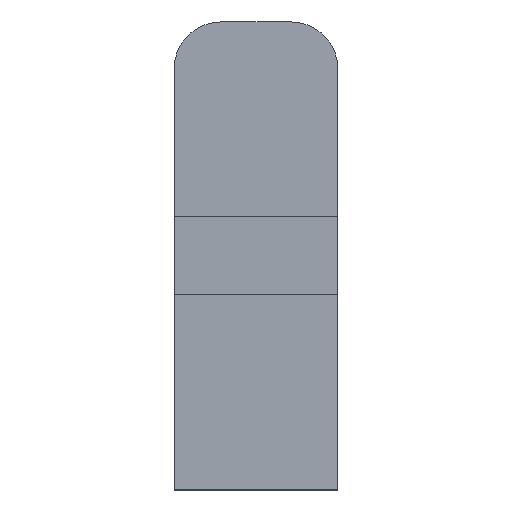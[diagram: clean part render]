
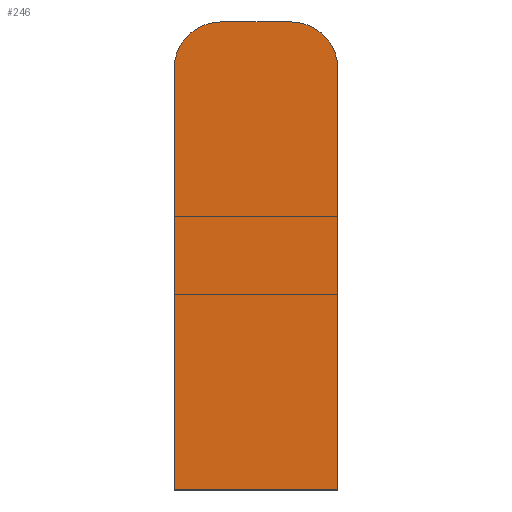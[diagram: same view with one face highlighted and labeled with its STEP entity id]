
A CAD part, front view. The second image highlights one B-rep face of the part: STEP entity #246.
In plain terms, the highlighted planar face has unit normal (0, -1, 0).
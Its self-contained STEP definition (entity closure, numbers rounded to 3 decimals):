
#11 = VERTEX_POINT ( 'NONE', #258 ) ;
#14 = VERTEX_POINT ( 'NONE', #266 ) ;
#39 = EDGE_LOOP ( 'NONE', ( #132, #133, #134, #135, #136, #137 ) ) ;
#55 = EDGE_CURVE ( 'NONE', #256, #249, #160, .T. ) ;
#60 = EDGE_CURVE ( 'NONE', #14, #11, #171, .T. ) ;
#62 = EDGE_CURVE ( 'NONE', #249, #253, #183, .T. ) ;
#65 = EDGE_CURVE ( 'NONE', #253, #257, #182, .T. ) ;
#68 = EDGE_CURVE ( 'NONE', #257, #14, #193, .T. ) ;
#76 = AXIS2_PLACEMENT_3D ( 'NONE', #298, #304, #312 ) ;
#77 = EDGE_CURVE ( 'NONE', #11, #256, #206, .T. ) ;
#87 = AXIS2_PLACEMENT_3D ( 'NONE', #308, #306, #309 ) ;
#100 = AXIS2_PLACEMENT_3D ( 'NONE', #379, #385, #386 ) ;
#132 = ORIENTED_EDGE ( 'NONE', *, *, #55, .T. ) ;
#133 = ORIENTED_EDGE ( 'NONE', *, *, #62, .T. ) ;
#134 = ORIENTED_EDGE ( 'NONE', *, *, #65, .T. ) ;
#135 = ORIENTED_EDGE ( 'NONE', *, *, #68, .T. ) ;
#136 = ORIENTED_EDGE ( 'NONE', *, *, #60, .T. ) ;
#137 = ORIENTED_EDGE ( 'NONE', *, *, #77, .T. ) ;
#160 = LINE ( 'NONE', #286, #168 ) ;
#168 = VECTOR ( 'NONE', #289, 1000. ) ;
#171 = LINE ( 'NONE', #294, #178 ) ;
#178 = VECTOR ( 'NONE', #299, 1000. ) ;
#179 = VECTOR ( 'NONE', #250, 1000. ) ;
#182 = LINE ( 'NONE', #252, #179 ) ;
#183 = CIRCLE ( 'NONE', #76, 3. ) ;
#193 = CIRCLE ( 'NONE', #87, 3. ) ;
#206 = LINE ( 'NONE', #333, #207 ) ;
#207 = VECTOR ( 'NONE', #334, 1000. ) ;
#227 = FACE_OUTER_BOUND ( 'NONE', #39, .T. ) ;
#246 = ADVANCED_FACE ( 'NONE', ( #227 ), #376, .F. ) ;
#249 = VERTEX_POINT ( 'NONE', #384 ) ;
#250 = DIRECTION ( 'NONE',  ( -1., 0., 0. ) ) ;
#252 = CARTESIAN_POINT ( 'NONE',  ( 2.25, 0., 13.5 ) ) ;
#253 = VERTEX_POINT ( 'NONE', #383 ) ;
#256 = VERTEX_POINT ( 'NONE', #389 ) ;
#257 = VERTEX_POINT ( 'NONE', #390 ) ;
#258 = CARTESIAN_POINT ( 'NONE',  ( -5.25, 0., -16.5 ) ) ;
#266 = CARTESIAN_POINT ( 'NONE',  ( -5.25, 0., 10.5 ) ) ;
#286 = CARTESIAN_POINT ( 'NONE',  ( 5.25, 0., -16.5 ) ) ;
#289 = DIRECTION ( 'NONE',  ( 0., 0., 1. ) ) ;
#294 = CARTESIAN_POINT ( 'NONE',  ( -5.25, 0., -16.5 ) ) ;
#298 = CARTESIAN_POINT ( 'NONE',  ( 2.25, 0., 10.5 ) ) ;
#299 = DIRECTION ( 'NONE',  ( 0., 0., -1. ) ) ;
#304 = DIRECTION ( 'NONE',  ( 0., -1., 0. ) ) ;
#306 = DIRECTION ( 'NONE',  ( 0., -1., 0. ) ) ;
#308 = CARTESIAN_POINT ( 'NONE',  ( -2.25, 0., 10.5 ) ) ;
#309 = DIRECTION ( 'NONE',  ( -1., 0., 0. ) ) ;
#312 = DIRECTION ( 'NONE',  ( -1., 0., 0. ) ) ;
#333 = CARTESIAN_POINT ( 'NONE',  ( 5.25, 0., -16.5 ) ) ;
#334 = DIRECTION ( 'NONE',  ( 1., 0., 0. ) ) ;
#376 = PLANE ( 'NONE',  #100 ) ;
#379 = CARTESIAN_POINT ( 'NONE',  ( 0., 0., -1.5 ) ) ;
#383 = CARTESIAN_POINT ( 'NONE',  ( 2.25, 0., 13.5 ) ) ;
#384 = CARTESIAN_POINT ( 'NONE',  ( 5.25, 0., 10.5 ) ) ;
#385 = DIRECTION ( 'NONE',  ( 0., 1., 0. ) ) ;
#386 = DIRECTION ( 'NONE',  ( -1., 0., 0. ) ) ;
#389 = CARTESIAN_POINT ( 'NONE',  ( 5.25, 0., -16.5 ) ) ;
#390 = CARTESIAN_POINT ( 'NONE',  ( -2.25, 0., 13.5 ) ) ;
